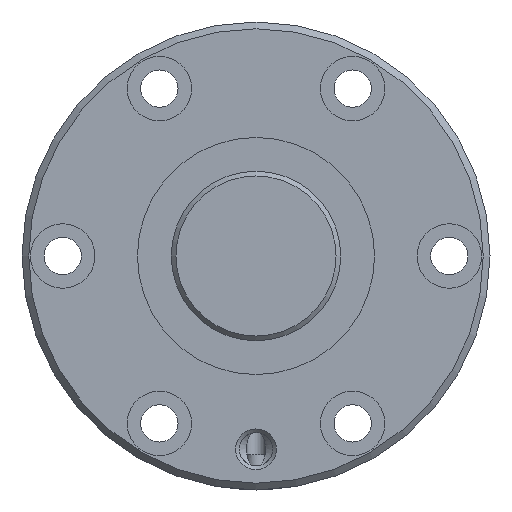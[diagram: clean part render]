
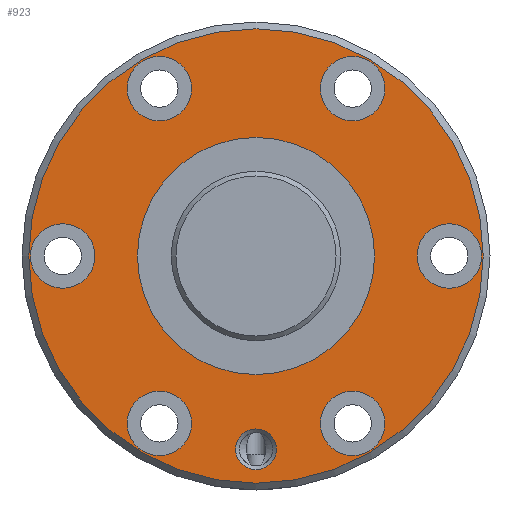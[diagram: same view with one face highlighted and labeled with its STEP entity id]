
A CAD part, left-side view. The second image highlights one B-rep face of the part: STEP entity #923.
In plain terms, the highlighted planar face has unit normal (-1, 0, 0).
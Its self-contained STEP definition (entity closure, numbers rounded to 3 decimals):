
#154=ORIENTED_EDGE('',*,*,#357,.T.);
#155=ORIENTED_EDGE('',*,*,#358,.T.);
#156=ORIENTED_EDGE('',*,*,#359,.T.);
#157=ORIENTED_EDGE('',*,*,#360,.T.);
#158=ORIENTED_EDGE('',*,*,#361,.T.);
#159=ORIENTED_EDGE('',*,*,#362,.T.);
#160=ORIENTED_EDGE('',*,*,#363,.T.);
#161=ORIENTED_EDGE('',*,*,#364,.T.);
#162=ORIENTED_EDGE('',*,*,#356,.F.);
#356=EDGE_CURVE('',#461,#461,#545,.T.);
#357=EDGE_CURVE('',#462,#462,#546,.T.);
#358=EDGE_CURVE('',#463,#463,#547,.F.);
#359=EDGE_CURVE('',#464,#464,#548,.T.);
#360=EDGE_CURVE('',#465,#465,#549,.T.);
#361=EDGE_CURVE('',#466,#466,#550,.T.);
#362=EDGE_CURVE('',#467,#467,#551,.T.);
#363=EDGE_CURVE('',#468,#468,#552,.T.);
#364=EDGE_CURVE('',#469,#469,#553,.T.);
#461=VERTEX_POINT('',#1548);
#462=VERTEX_POINT('',#1551);
#463=VERTEX_POINT('',#1553);
#464=VERTEX_POINT('',#1555);
#465=VERTEX_POINT('',#1557);
#466=VERTEX_POINT('',#1559);
#467=VERTEX_POINT('',#1561);
#468=VERTEX_POINT('',#1563);
#469=VERTEX_POINT('',#1565);
#545=CIRCLE('',#1030,33.5);
#546=CIRCLE('',#1032,17.48);
#547=CIRCLE('',#1033,4.75);
#548=CIRCLE('',#1034,3.);
#549=CIRCLE('',#1035,4.75);
#550=CIRCLE('',#1036,4.75);
#551=CIRCLE('',#1037,4.75);
#552=CIRCLE('',#1038,4.75);
#553=CIRCLE('',#1039,4.75);
#626=EDGE_LOOP('',(#154));
#627=EDGE_LOOP('',(#155));
#628=EDGE_LOOP('',(#156));
#629=EDGE_LOOP('',(#157));
#630=EDGE_LOOP('',(#158));
#631=EDGE_LOOP('',(#159));
#632=EDGE_LOOP('',(#160));
#633=EDGE_LOOP('',(#161));
#634=EDGE_LOOP('',(#162));
#766=FACE_BOUND('',#626,.T.);
#767=FACE_BOUND('',#627,.T.);
#768=FACE_BOUND('',#628,.T.);
#769=FACE_BOUND('',#629,.T.);
#770=FACE_BOUND('',#630,.T.);
#771=FACE_BOUND('',#631,.T.);
#772=FACE_BOUND('',#632,.T.);
#773=FACE_BOUND('',#633,.T.);
#774=FACE_BOUND('',#634,.T.);
#888=PLANE('',#1031);
#923=ADVANCED_FACE('',(#766,#767,#768,#769,#770,#771,#772,#773,#774),#888,
 .T.);
#1030=AXIS2_PLACEMENT_3D('',#1547,#1198,#1199);
#1031=AXIS2_PLACEMENT_3D('',#1549,#1200,#1201);
#1032=AXIS2_PLACEMENT_3D('',#1550,#1202,#1203);
#1033=AXIS2_PLACEMENT_3D('',#1552,#1204,#1205);
#1034=AXIS2_PLACEMENT_3D('',#1554,#1206,#1207);
#1035=AXIS2_PLACEMENT_3D('',#1556,#1208,#1209);
#1036=AXIS2_PLACEMENT_3D('',#1558,#1210,#1211);
#1037=AXIS2_PLACEMENT_3D('',#1560,#1212,#1213);
#1038=AXIS2_PLACEMENT_3D('',#1562,#1214,#1215);
#1039=AXIS2_PLACEMENT_3D('',#1564,#1216,#1217);
#1198=DIRECTION('',(1.,0.,0.));
#1199=DIRECTION('',(0.,0.,-1.));
#1200=DIRECTION('',(-1.,0.,0.));
#1201=DIRECTION('',(0.,0.,1.));
#1202=DIRECTION('',(1.,0.,0.));
#1203=DIRECTION('',(0.,0.,-1.));
#1204=DIRECTION('',(-1.,0.,0.));
#1205=DIRECTION('',(0.,0.,1.));
#1206=DIRECTION('',(1.,0.,0.));
#1207=DIRECTION('',(0.,0.,-1.));
#1208=DIRECTION('',(1.,0.,0.));
#1209=DIRECTION('',(0.,0.,-1.));
#1210=DIRECTION('',(1.,0.,0.));
#1211=DIRECTION('',(0.,0.,-1.));
#1212=DIRECTION('',(1.,0.,0.));
#1213=DIRECTION('',(0.,0.,-1.));
#1214=DIRECTION('',(1.,0.,0.));
#1215=DIRECTION('',(0.,0.,-1.));
#1216=DIRECTION('',(1.,0.,0.));
#1217=DIRECTION('',(0.,0.,-1.));
#1547=CARTESIAN_POINT('',(0.,0.,0.));
#1548=CARTESIAN_POINT('',(0.,0.,-33.5));
#1549=CARTESIAN_POINT('',(0.,33.5,0.));
#1550=CARTESIAN_POINT('',(0.,0.,0.));
#1551=CARTESIAN_POINT('',(0.,0.,-17.48));
#1552=CARTESIAN_POINT('',(0.,28.5,0.));
#1553=CARTESIAN_POINT('',(0.,28.5,4.75));
#1554=CARTESIAN_POINT('',(0.,0.,-28.5));
#1555=CARTESIAN_POINT('',(0.,0.,-31.5));
#1556=CARTESIAN_POINT('',(0.,-28.5,0.));
#1557=CARTESIAN_POINT('',(0.,-28.5,-4.75));
#1558=CARTESIAN_POINT('',(0.,14.25,24.682));
#1559=CARTESIAN_POINT('',(0.,14.25,19.932));
#1560=CARTESIAN_POINT('',(0.,-14.25,-24.682));
#1561=CARTESIAN_POINT('',(0.,-14.25,-29.432));
#1562=CARTESIAN_POINT('',(0.,-14.25,24.682));
#1563=CARTESIAN_POINT('',(0.,-14.25,19.932));
#1564=CARTESIAN_POINT('',(0.,14.25,-24.682));
#1565=CARTESIAN_POINT('',(0.,14.25,-29.432));
